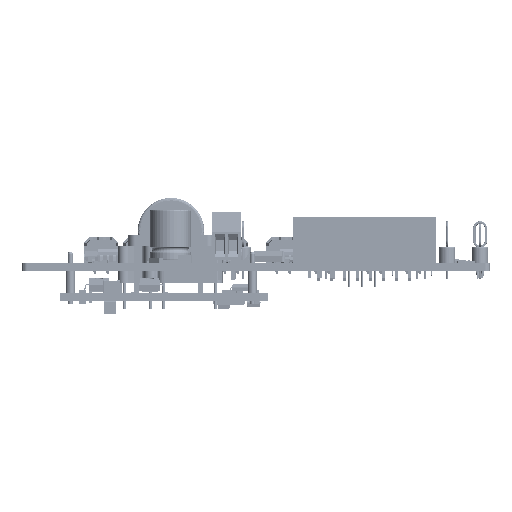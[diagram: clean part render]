
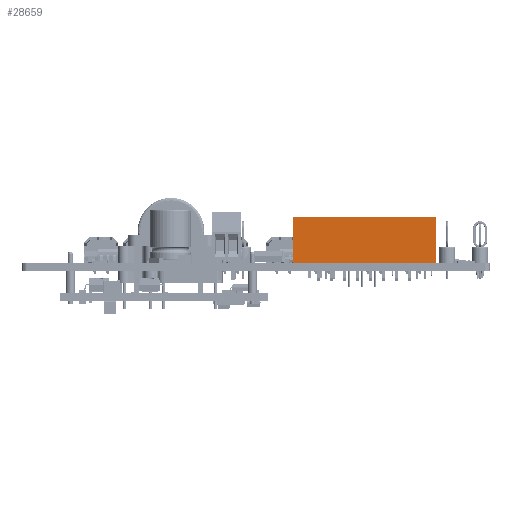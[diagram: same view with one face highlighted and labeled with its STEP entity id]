
A CAD part, left-side view. The second image highlights one B-rep face of the part: STEP entity #28659.
In plain terms, the highlighted planar face has unit normal (-1, 0, 0) as drawn and (0, 1, 0) by its records, which use the part's own axes.
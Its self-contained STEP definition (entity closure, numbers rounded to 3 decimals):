
#24871 = VERTEX_POINT('',#24872);
#24872 = CARTESIAN_POINT('',(-13.97,4.4,0.));
#24878 = EDGE_CURVE('',#24871,#24879,#24881,.T.);
#24879 = VERTEX_POINT('',#24880);
#24880 = CARTESIAN_POINT('',(13.97,4.4,0.));
#24881 = LINE('',#24882,#24883);
#24882 = CARTESIAN_POINT('',(0.,4.4,0.));
#24883 = VECTOR('',#24884,1.);
#24884 = DIRECTION('',(1.,0.,0.));
#28579 = VERTEX_POINT('',#28580);
#28580 = CARTESIAN_POINT('',(13.97,4.4,9.));
#28586 = EDGE_CURVE('',#28579,#28587,#28589,.T.);
#28587 = VERTEX_POINT('',#28588);
#28588 = CARTESIAN_POINT('',(-13.97,4.4,9.));
#28589 = LINE('',#28590,#28591);
#28590 = CARTESIAN_POINT('',(0.,4.4,9.));
#28591 = VECTOR('',#28592,1.);
#28592 = DIRECTION('',(-1.,0.,0.));
#28646 = EDGE_CURVE('',#28587,#24871,#28647,.T.);
#28647 = LINE('',#28648,#28649);
#28648 = CARTESIAN_POINT('',(-13.97,4.4,4.5));
#28649 = VECTOR('',#28650,1.);
#28650 = DIRECTION('',(0.,0.,-1.));
#28659 = ADVANCED_FACE('',(#28660),#28671,.F.);
#28660 = FACE_BOUND('',#28661,.T.);
#28661 = EDGE_LOOP('',(#28662,#28668,#28669,#28670));
#28662 = ORIENTED_EDGE('',*,*,#28663,.T.);
#28663 = EDGE_CURVE('',#28579,#24879,#28664,.T.);
#28664 = LINE('',#28665,#28666);
#28665 = CARTESIAN_POINT('',(13.97,4.4,4.5));
#28666 = VECTOR('',#28667,1.);
#28667 = DIRECTION('',(0.,0.,-1.));
#28668 = ORIENTED_EDGE('',*,*,#24878,.F.);
#28669 = ORIENTED_EDGE('',*,*,#28646,.F.);
#28670 = ORIENTED_EDGE('',*,*,#28586,.F.);
#28671 = PLANE('',#28672);
#28672 = AXIS2_PLACEMENT_3D('',#28673,#28674,#28675);
#28673 = CARTESIAN_POINT('',(0.,4.4,4.5));
#28674 = DIRECTION('',(0.,-1.,0.));
#28675 = DIRECTION('',(0.,0.,-1.));
